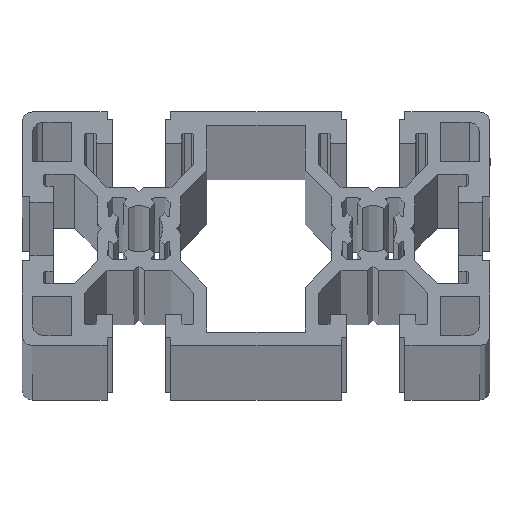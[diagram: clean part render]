
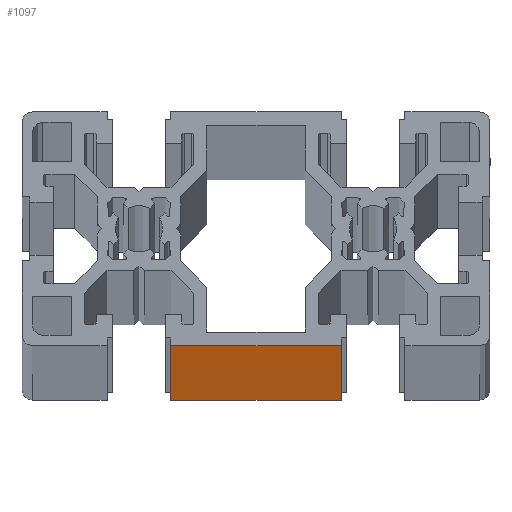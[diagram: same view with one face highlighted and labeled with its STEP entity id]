
A CAD part, top view. The second image highlights one B-rep face of the part: STEP entity #1097.
In plain terms, the highlighted planar face has unit normal (0, -1, 0).
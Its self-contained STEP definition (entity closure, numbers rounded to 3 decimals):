
#40 = EDGE_CURVE ( 'NONE', #2718, #10879, #6763, .T. ) ;
#41 = DIRECTION ( 'NONE',  ( 1., 0., 0. ) ) ;
#131 = VERTEX_POINT ( 'NONE', #5955 ) ;
#377 = CARTESIAN_POINT ( 'NONE',  ( 45., 0., -6000. ) ) ;
#805 = VERTEX_POINT ( 'NONE', #3349 ) ;
#1097 = ADVANCED_FACE ( 'NONE', ( #10445 ), #5624, .T. ) ;
#1179 = ORIENTED_EDGE ( 'NONE', *, *, #5196, .F. ) ;
#1357 = AXIS2_PLACEMENT_3D ( 'NONE', #6253, #5398, #5351 ) ;
#2096 = CARTESIAN_POINT ( 'NONE',  ( 28.643, 0., -6000. ) ) ;
#2580 = EDGE_CURVE ( 'NONE', #131, #805, #7276, .T. ) ;
#2718 = VERTEX_POINT ( 'NONE', #12167 ) ;
#3175 = DIRECTION ( 'NONE',  ( 0., 0., 1. ) ) ;
#3349 = CARTESIAN_POINT ( 'NONE',  ( 61.357, 0., 0. ) ) ;
#3361 = ORIENTED_EDGE ( 'NONE', *, *, #2580, .F. ) ;
#3893 = VECTOR ( 'NONE', #41, 1000. ) ;
#4367 = ORIENTED_EDGE ( 'NONE', *, *, #40, .T. ) ;
#4412 = VECTOR ( 'NONE', #5295, 1000. ) ;
#4644 = LINE ( 'NONE', #2096, #10068 ) ;
#4759 = DIRECTION ( 'NONE',  ( 0., 0., 1. ) ) ;
#5196 = EDGE_CURVE ( 'NONE', #2718, #131, #4644, .T. ) ;
#5295 = DIRECTION ( 'NONE',  ( 1., 0., 0. ) ) ;
#5345 = CARTESIAN_POINT ( 'NONE',  ( 61.357, 0., -6000. ) ) ;
#5351 = DIRECTION ( 'NONE',  ( 1., 0., 0. ) ) ;
#5372 = ORIENTED_EDGE ( 'NONE', *, *, #5898, .T. ) ;
#5398 = DIRECTION ( 'NONE',  ( 0., -1., 0. ) ) ;
#5624 = PLANE ( 'NONE',  #1357 ) ;
#5898 = EDGE_CURVE ( 'NONE', #10879, #805, #9527, .T. ) ;
#5955 = CARTESIAN_POINT ( 'NONE',  ( 28.643, 0., 0. ) ) ;
#6253 = CARTESIAN_POINT ( 'NONE',  ( 45., 0., -6000. ) ) ;
#6763 = LINE ( 'NONE', #377, #3893 ) ;
#7276 = LINE ( 'NONE', #12831, #4412 ) ;
#9527 = LINE ( 'NONE', #11203, #9880 ) ;
#9880 = VECTOR ( 'NONE', #4759, 1000. ) ;
#10068 = VECTOR ( 'NONE', #3175, 1000. ) ;
#10445 = FACE_OUTER_BOUND ( 'NONE', #13737, .T. ) ;
#10879 = VERTEX_POINT ( 'NONE', #5345 ) ;
#11203 = CARTESIAN_POINT ( 'NONE',  ( 61.357, 0., -6000. ) ) ;
#12167 = CARTESIAN_POINT ( 'NONE',  ( 28.643, 0., -6000. ) ) ;
#12831 = CARTESIAN_POINT ( 'NONE',  ( 45., 0., 0. ) ) ;
#13737 = EDGE_LOOP ( 'NONE', ( #3361, #1179, #4367, #5372 ) ) ;
